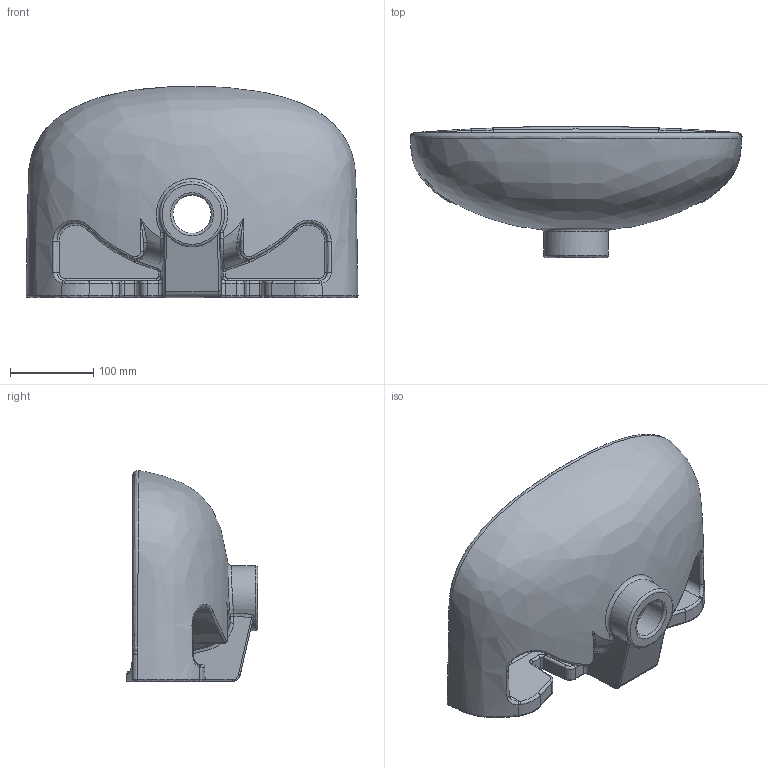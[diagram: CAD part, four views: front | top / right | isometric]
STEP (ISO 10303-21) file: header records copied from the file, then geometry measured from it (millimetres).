
FILE_DESCRIPTION(/* description */ (''),/* implementation_level */ '2;1');
FILE_NAME(/* name */ '703640.stp',/* time_stamp */ '2021-05-19T08:30:52+02:00',/* author */ (''),/* organization */ (''),/* preprocessor_version */ 'ST-DEVELOPER v16.7',/* originating_system */ 'SIEMENS PLM Software NX 1863',/* authorisation */ '');
FILE_SCHEMA (('AUTOMOTIVE_DESIGN { 1 0 10303 214 3 1 1 1 }'));
Length unit declared in the file: millimetre
Products named in the file (1): Muel1DE85134cahd
Bounding box: 399 x 157.99 x 253.67 mm (x, y, z)
Volume: 4324882 mm3; surface area: 362818.9 mm2
Topology: 1 solids, 1 shells, 190 faces, 447 edges, 258 vertices
Faces by surface type: bspline 85, cylinder 51, torus 25, plane 24, extrusion 2, sphere 2, cone 1
Full cylindrical faces by diameter (mm): 25 x1, 46 x1, 78 x1
Entity records: 10505 total; most frequent: CARTESIAN_POINT 6744, ORIENTED_EDGE 854, DIRECTION 671, EDGE_CURVE 427, AXIS2_PLACEMENT_3D 287, VERTEX_POINT 251, EDGE_LOOP 204, ADVANCED_FACE 190
